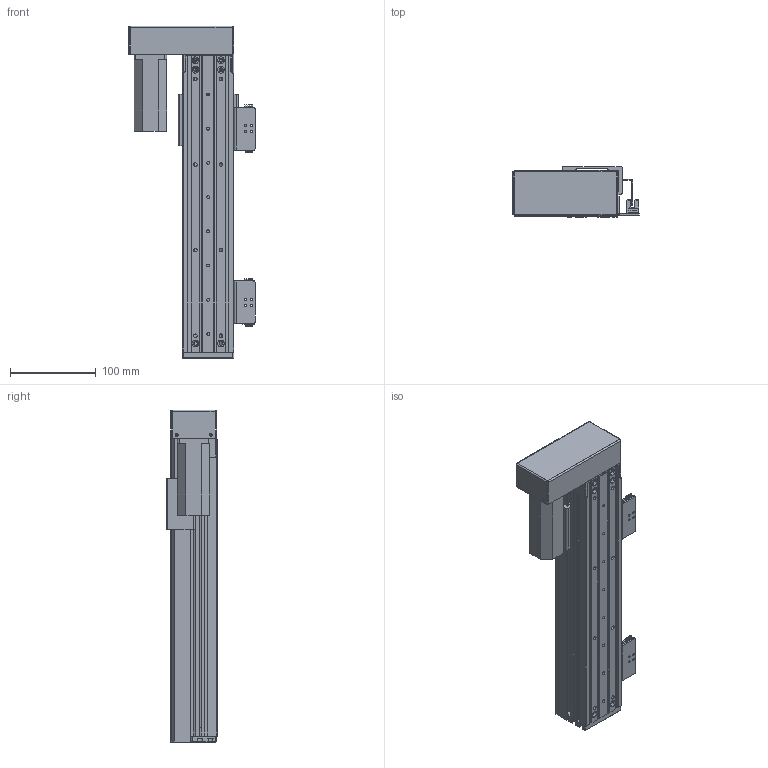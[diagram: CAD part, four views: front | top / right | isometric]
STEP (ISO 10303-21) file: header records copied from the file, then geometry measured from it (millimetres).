
FILE_DESCRIPTION (( 'STEP AP203' ), '1' );
FILE_NAME ('RY60FB-L1210-300-LK.SLDASM_200.step', '2021-02-23T01:00:48', ( '盈信电脑' ), ( '东莞市道滘镇水果街19号' ), 'SwSTEP 2.0', 'SolidWorks 2012', '' );
FILE_SCHEMA (( 'CONFIG_CONTROL_DESIGN' ));
Length unit declared in the file: millimetre
Products named in the file (14): RY60FB-L1210-300-LK.SLDASM_200; RY80俋离覜茼え; 覜茼ん674; RY60FB-感应器674光电安装座; RY60FB-674嫖萇耀輸; RY60FB-蛌殏萇儂欶; RY60FB綴裔啣; RY60FB-左右折电机安装板; RY60FB转折电机端支撑座; 侂狟100W; RY60FB-臏賑輸; 滅袉蝶18-10; RY60FB-蛌殏菁釱-300-LK_200; RY60FB-蛌殏奻裔-300-LK_200
Assembly tree (18 placements, depth 3):
  RY60FB-L1210-300-LK.SLDASM_200
    RY60FB-蛌殏菁釱-300-LK_200
    RY60FB-臏賑輸
    滅袉蝶18-10  x4
    RY60FB-蛌殏奻裔-300-LK_200
    侂狟100W
    RY60FB綴裔啣
    RY60FB转折电机端支撑座
    RY60FB-左右折电机安装板
    RY60FB-蛌殏萇儂欶
    RY60FB-674嫖萇耀輸  x2
      RY60FB-感应器674光电安装座
      覜茼ん674
    RY80俋离覜茼え
Bounding box: 147.75 x 58.5 x 388 mm (x, y, z)
Volume: 631713.5 mm3; surface area: 338559.8 mm2
Topology: 19 solids, 19 shells, 1141 faces, 3098 edges, 1974 vertices
Faces by surface type: plane 591, cylinder 445, cone 97, bspline 8
Entity records: 30606 total; most frequent: CARTESIAN_POINT 6006, DIRECTION 4836, ORIENTED_EDGE 4748, EDGE_CURVE 2374, AXIS2_PLACEMENT_3D 1678, VERTEX_POINT 1536, LINE 1480, VECTOR 1480
